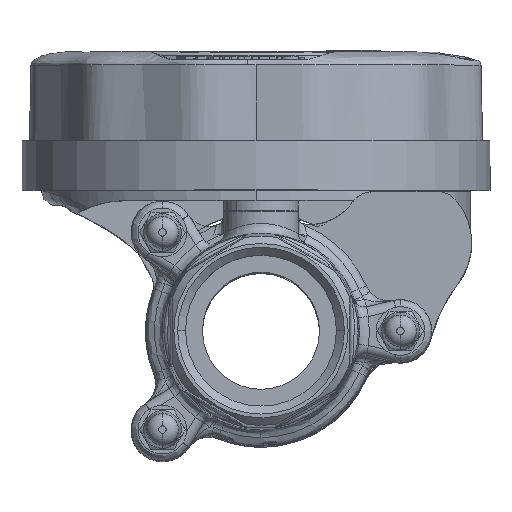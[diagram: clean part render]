
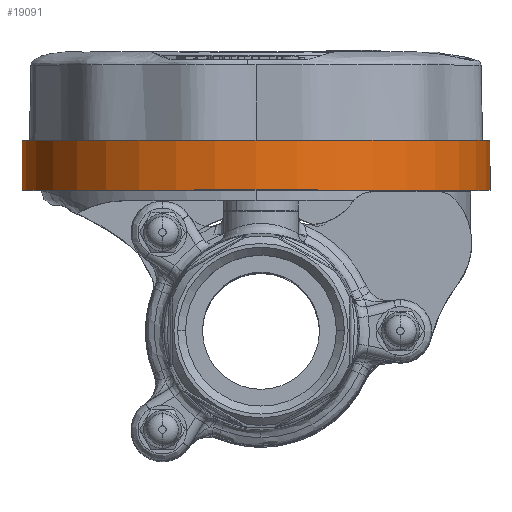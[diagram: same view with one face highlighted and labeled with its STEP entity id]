
A CAD part, top view. The second image highlights one B-rep face of the part: STEP entity #19091.
In plain terms, the highlighted cylindrical face has radius 47 mm (diameter 94 mm), a partial arc.
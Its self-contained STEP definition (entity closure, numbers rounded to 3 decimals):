
#1651 = CARTESIAN_POINT ( 'NONE',  ( 46., 38.3, 9.1 ) ) ;
#2939 = CARTESIAN_POINT ( 'NONE',  ( -48., 28.3, 9.1 ) ) ;
#6113 = DIRECTION ( 'NONE',  ( 0., -1., 0. ) ) ;
#7947 = CARTESIAN_POINT ( 'NONE',  ( -48., 38.3, 9.1 ) ) ;
#8863 = LINE ( 'NONE', #20352, #21820 ) ;
#10067 = LINE ( 'NONE', #39107, #37605 ) ;
#11180 = ORIENTED_EDGE ( 'NONE', *, *, #49064, .F. ) ;
#14177 = CIRCLE ( 'NONE', #63696, 47. ) ;
#15288 = CARTESIAN_POINT ( 'NONE',  ( -1., 28.3, 9.1 ) ) ;
#19091 = ADVANCED_FACE ( 'NONE', ( #21729 ), #33069, .T. ) ;
#20198 = DIRECTION ( 'NONE',  ( 0., -1., 0. ) ) ;
#20352 = CARTESIAN_POINT ( 'NONE',  ( -48., 38.3, 9.1 ) ) ;
#20805 = DIRECTION ( 'NONE',  ( -1., 0., 0. ) ) ;
#21115 = CARTESIAN_POINT ( 'NONE',  ( 46., 28.3, 9.1 ) ) ;
#21729 = FACE_OUTER_BOUND ( 'NONE', #41157, .T. ) ;
#21820 = VECTOR ( 'NONE', #20198, 1000. ) ;
#23938 = ORIENTED_EDGE ( 'NONE', *, *, #56844, .F. ) ;
#26412 = ORIENTED_EDGE ( 'NONE', *, *, #61043, .T. ) ;
#27230 = DIRECTION ( 'NONE',  ( 0., -1., 0. ) ) ;
#33069 = CYLINDRICAL_SURFACE ( 'NONE', #39100, 47. ) ;
#34543 = VERTEX_POINT ( 'NONE', #21115 ) ;
#37605 = VECTOR ( 'NONE', #6113, 1000. ) ;
#38235 = DIRECTION ( 'NONE',  ( -1., 0., 0. ) ) ;
#38660 = EDGE_CURVE ( 'NONE', #59752, #53921, #8863, .T. ) ;
#38795 = DIRECTION ( 'NONE',  ( 0., -1., 0. ) ) ;
#38930 = CARTESIAN_POINT ( 'NONE',  ( -1., 38.3, 9.1 ) ) ;
#39100 = AXIS2_PLACEMENT_3D ( 'NONE', #38930, #38795, #38235 ) ;
#39107 = CARTESIAN_POINT ( 'NONE',  ( 46., 38.3, 9.1 ) ) ;
#41157 = EDGE_LOOP ( 'NONE', ( #11180, #26412, #62508, #23938 ) ) ;
#49064 = EDGE_CURVE ( 'NONE', #61555, #34543, #10067, .T. ) ;
#53483 = DIRECTION ( 'NONE',  ( 0., -1., 0. ) ) ;
#53921 = VERTEX_POINT ( 'NONE', #2939 ) ;
#56844 = EDGE_CURVE ( 'NONE', #34543, #53921, #14177, .T. ) ;
#57550 = AXIS2_PLACEMENT_3D ( 'NONE', #59980, #27230, #65589 ) ;
#59752 = VERTEX_POINT ( 'NONE', #7947 ) ;
#59980 = CARTESIAN_POINT ( 'NONE',  ( -1., 38.3, 9.1 ) ) ;
#61043 = EDGE_CURVE ( 'NONE', #61555, #59752, #68944, .T. ) ;
#61555 = VERTEX_POINT ( 'NONE', #1651 ) ;
#62508 = ORIENTED_EDGE ( 'NONE', *, *, #38660, .T. ) ;
#63696 = AXIS2_PLACEMENT_3D ( 'NONE', #15288, #53483, #20805 ) ;
#65589 = DIRECTION ( 'NONE',  ( -1., 0., 0. ) ) ;
#68944 = CIRCLE ( 'NONE', #57550, 47. ) ;
